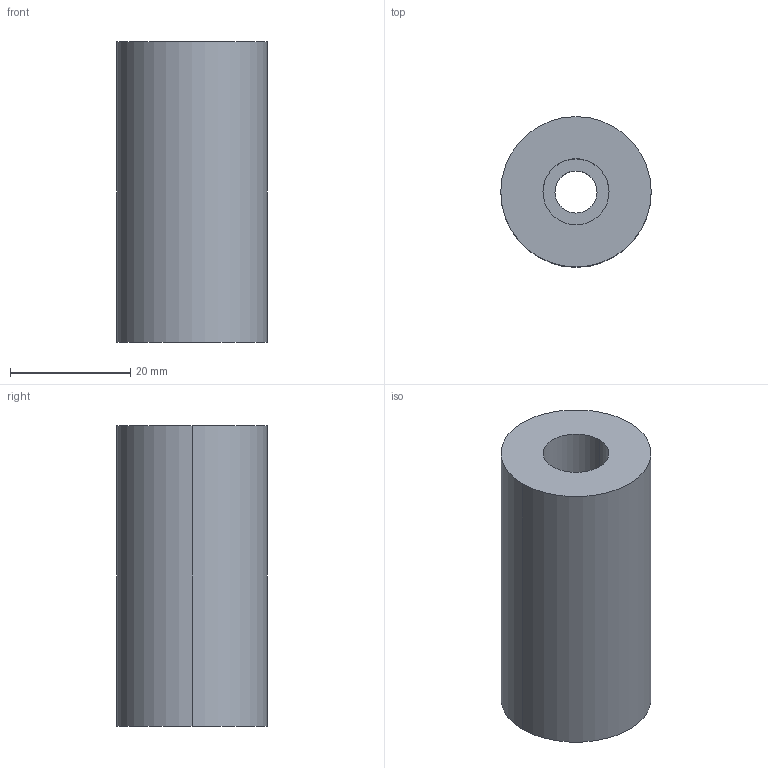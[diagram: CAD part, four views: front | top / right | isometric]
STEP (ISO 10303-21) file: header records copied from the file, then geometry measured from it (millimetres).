
FILE_DESCRIPTION(/* description */ (''),/* implementation_level */ '2;1');
FILE_NAME(/* name */ '3d_aznx25-50-m6-20_03264_r00.stp',/* time_stamp */ '2011-01-10T14:17:33+09:00',/* author */ ('MISUMI'),/* organization */ (''),/* preprocessor_version */ 'ST-DEVELOPER v11',/* originating_system */ 'UGS - NX 5.0',/* authorisation */ '');
FILE_SCHEMA (('CONFIG_CONTROL_DESIGN'));
Length unit declared in the file: millimetre
Products named in the file (1): 3d_aznx25-50-m6-20_03264_r00
Bounding box: 25 x 25 x 50 mm (x, y, z)
Volume: 20923 mm3; surface area: 6308.3 mm2
Topology: 1 solids, 1 shells, 9 faces, 18 edges, 12 vertices
Faces by surface type: cylinder 6, plane 3
Entity records: 334 total; most frequent: DIRECTION 50, CARTESIAN_POINT 40, ORIENTED_EDGE 36, AXIS2_PLACEMENT_3D 22, EDGE_CURVE 18, EDGE_LOOP 12, VERTEX_POINT 12, CIRCLE 12
